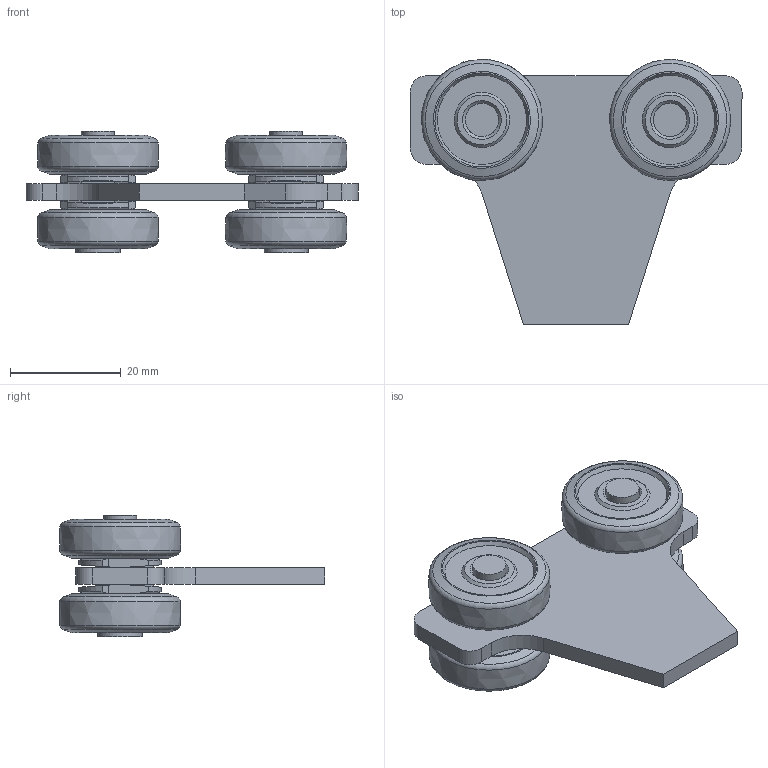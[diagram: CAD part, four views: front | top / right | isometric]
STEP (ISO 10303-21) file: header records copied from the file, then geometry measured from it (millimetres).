
FILE_DESCRIPTION(/* description */ ('Brennteil'),/* implementation_level */ '2;1');
FILE_NAME(/* name */ 'Q:\sge-ma\Produktmanagement-STB\STB\Workspace\stp\010336842.stp',/* time_stamp */ '2016-07-14T12:41:13+02:00',/* author */ ('avschreier'),/* organization */ (''),/* preprocessor_version */ 'ST-DEVELOPER v16.1',/* originating_system */ 'Autodesk Inventor 2016',/* authorisation */ '');
FILE_SCHEMA (('AUTOMOTIVE_DESIGN { 1 0 10303 214 3 1 1 }'));
Length unit declared in the file: millimetre
Products named in the file (5): 000302036; 000303234; 336290000; 000304010; 010336842
Assembly tree (11 placements, depth 2):
  010336842
    000302036
    000303234  x4
    336290000  x4
    000304010  x2
Bounding box: 60 x 47.99 x 22 mm (x, y, z)
Volume: 15499.3 mm3; surface area: 11537.7 mm2
Topology: 11 solids, 11 shells, 168 faces, 378 edges, 246 vertices
Faces by surface type: plane 90, cone 36, cylinder 28, torus 10, bspline 4
Full cylindrical faces by diameter (mm): 6 x6, 6.1 x4, 8 x2
Entity records: 1920 total; most frequent: CARTESIAN_POINT 340, DIRECTION 334, ORIENTED_EDGE 260, AXIS2_PLACEMENT_3D 131, EDGE_CURVE 130, VERTEX_POINT 95, EDGE_LOOP 91, LINE 72
